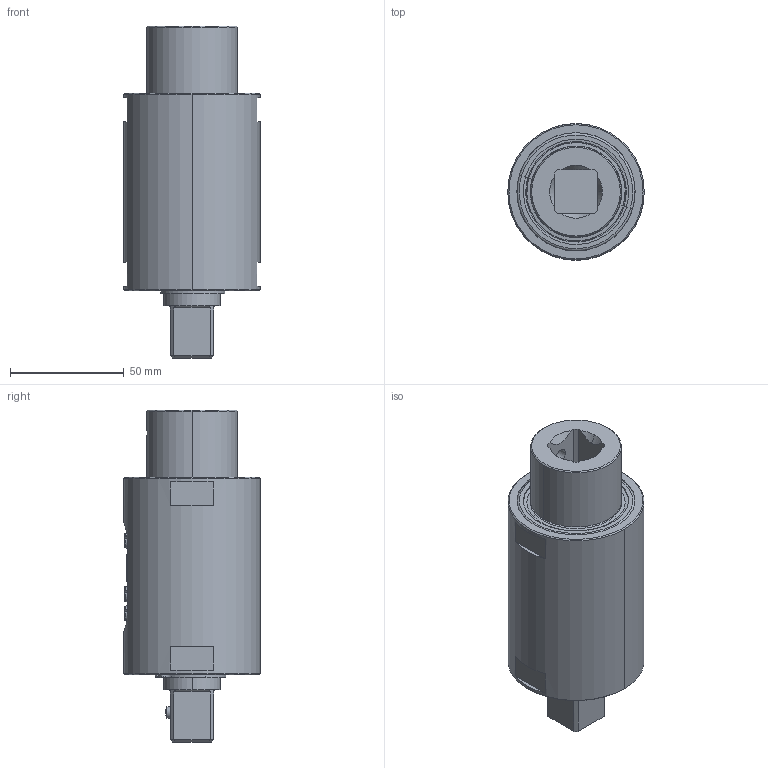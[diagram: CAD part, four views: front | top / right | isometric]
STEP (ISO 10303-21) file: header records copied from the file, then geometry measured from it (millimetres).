
FILE_DESCRIPTION (( 'STEP AP203' ), '1' );
FILE_NAME ('400006-ATS014_500Nm-25mm-Vierkant.STEP', '2017-02-20T10:22:30', ( '' ), ( '' ), 'SwSTEP 2.0', 'SolidWorks 2016', '' );
FILE_SCHEMA (( 'CONFIG_CONTROL_DESIGN' ));
Length unit declared in the file: millimetre
Products named in the file (14): 999999-ATN173_Rillenkugellager_6205-2Z_Standard; 400006-ATM031_Passscheibe_35x52x1; 400006-ATE009-Binder-712-0416-90-05; ISO 4762 M3 x 5 --- 5S_DIN 912 M3 x 5 --- 5S; 999999-ATM007-Tellerfeder_k_vorgespannt51,5x35,5_Standard; 400006-ATM002-Mutter-Binder-Stecker; Circlip DIN 471 - 25 x 1.2_Circlip DIN 471 - 25 x 1.2; ISO 1207 - M4 x 5 --- 5S_ISO 1207 - M4 x 5 --- 5S; 400006-ATM035_Rohrgehäuse_60mm; ISO 1207 - M4 x 4 --- 4S_ISO 1207 - M4 x 4 --- 4S; 400006-ATS021-PCB12_mit_Stecker_Welle 25mm; 400006-ATS014_500Nm-25mm-Vierkant; DIN 988-42x52x1_DIN 988-42x52x1; 400006-ATM034_Welle-25mm-Vierkant
Assembly tree (18 placements, depth 3):
  400006-ATS014_500Nm-25mm-Vierkant
    400006-ATM034_Welle-25mm-Vierkant
    400006-ATS021-PCB12_mit_Stecker_Welle 25mm
      400006-ATE009-Binder-712-0416-90-05
    ISO 4762 M3 x 5 --- 5S_DIN 912 M3 x 5 --- 5S  x4
    400006-ATM035_Rohrgehäuse_60mm
    400006-ATM031_Passscheibe_35x52x1
    DIN 988-42x52x1_DIN 988-42x52x1
    999999-ATM007-Tellerfeder_k_vorgespannt51,5x35,5_Standard
    999999-ATN173_Rillenkugellager_6205-2Z_Standard  x2
    ISO 1207 - M4 x 5 --- 5S_ISO 1207 - M4 x 5 --- 5S  x2
    ISO 1207 - M4 x 4 --- 4S_ISO 1207 - M4 x 4 --- 4S
    Circlip DIN 471 - 25 x 1.2_Circlip DIN 471 - 25 x 1.2
    400006-ATM002-Mutter-Binder-Stecker
Bounding box: 60 x 60 x 146 mm (x, y, z)
Volume: 185416.8 mm3; surface area: 88174.7 mm2
Topology: 41 solids, 41 shells, 996 faces, 2432 edges, 1511 vertices
Faces by surface type: cylinder 316, cone 315, plane 233, torus 86, sphere 36, bspline 10
Entity records: 21686 total; most frequent: CARTESIAN_POINT 4886, DIRECTION 3402, ORIENTED_EDGE 3036, EDGE_CURVE 1518, AXIS2_PLACEMENT_3D 1416, VERTEX_POINT 964, CIRCLE 758, EDGE_LOOP 724
